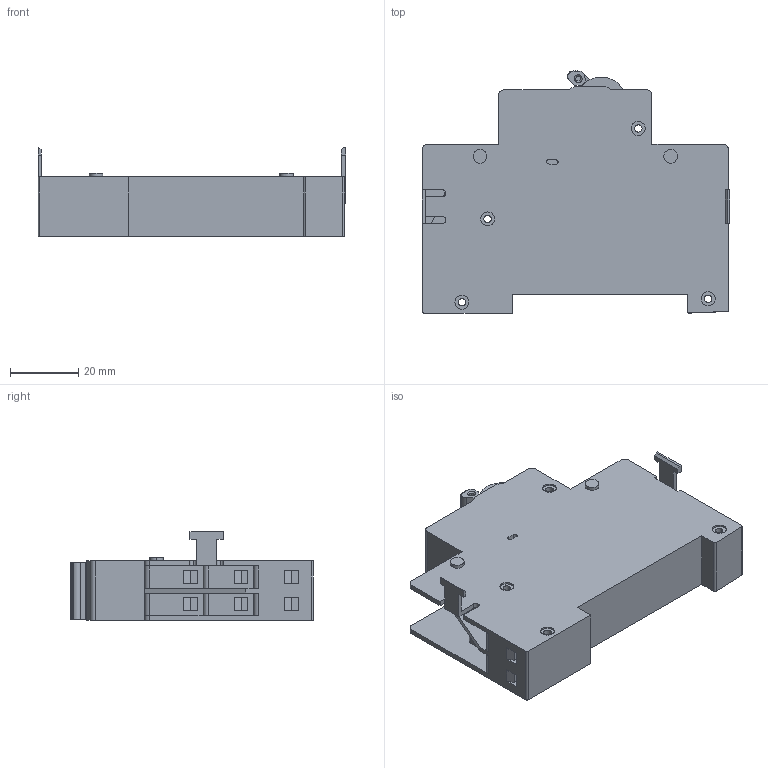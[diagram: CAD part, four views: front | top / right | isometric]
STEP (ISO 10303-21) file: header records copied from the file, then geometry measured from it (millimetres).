
FILE_DESCRIPTION (( 'STEP AP214' ), '1' );
FILE_NAME ('SV-LS_SP-LS.step', '2011-08-23T07:41:28', ( 'Radek Veselý' ), ( 'Siemens and Partners' ), 'SwSTEP 2.0', 'SolidWorks 2006303', '' );
FILE_SCHEMA (( 'AUTOMOTIVE_DESIGN' ));
Length unit declared in the file: millimetre
Products named in the file (1): SV-LS_SP-LS
Bounding box: 90.4 x 71.12 x 26.1 mm (x, y, z)
Volume: 79125 mm3; surface area: 21703 mm2
Topology: 8 solids, 8 shells, 646 faces, 1605 edges, 1012 vertices
Faces by surface type: plane 445, cylinder 135, cone 30, sphere 24, torus 12
Entity records: 26365 total; most frequent: CARTESIAN_POINT 3552, DIRECTION 3295, ORIENTED_EDGE 3210, EDGE_CURVE 1605, AXIS2_PLACEMENT_3D 1115, VECTOR 1065, LINE 1065, VERTEX_POINT 1012
